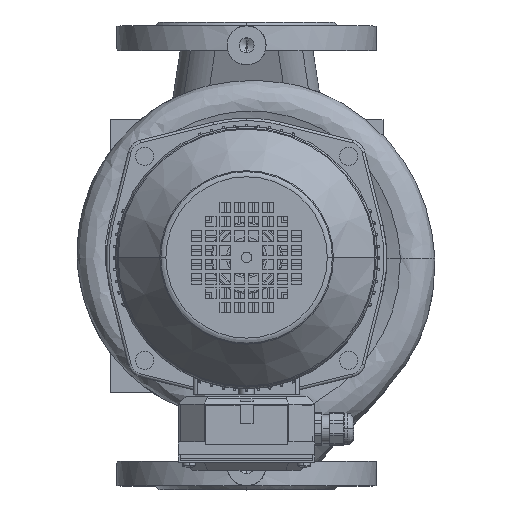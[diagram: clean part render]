
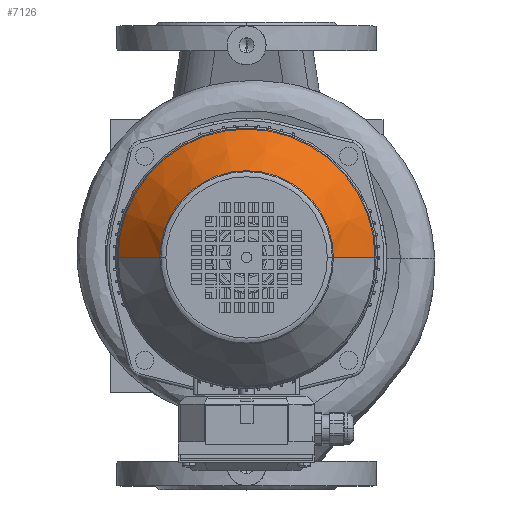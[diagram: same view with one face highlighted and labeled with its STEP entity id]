
A CAD part, top view. The second image highlights one B-rep face of the part: STEP entity #7126.
In plain terms, the highlighted conical face has half-angle 38.66 degrees and reference radius 65 mm.
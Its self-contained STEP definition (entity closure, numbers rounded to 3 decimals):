
#7126=ADVANCED_FACE('NONE',(#16731),#16732,.T.);
#16731=FACE_OUTER_BOUND('',#32318,.T.);
#16732=CONICAL_SURFACE('',#32319,65.0,0.675);
#32318=EDGE_LOOP('',(#48997,#48998,#48999,#49000));
#32319=AXIS2_PLACEMENT_3D('',#49001,#49002,#49003);
#48997=ORIENTED_EDGE('',*,*,#57045,.F.);
#48998=ORIENTED_EDGE('',*,*,#57046,.T.);
#48999=ORIENTED_EDGE('',*,*,#57047,.F.);
#49000=ORIENTED_EDGE('',*,*,#57048,.T.);
#49001=CARTESIAN_POINT('',(0.0,110.0,0.0));
#49002=DIRECTION('',(-0.0,-1.0,-0.0));
#49003=DIRECTION('',(0.0,0.0,-1.0));
#57045=EDGE_CURVE('',#70245,#70246,#70247,.T.);
#57046=EDGE_CURVE('NONE',#70245,#70248,#70249,.T.);
#57047=EDGE_CURVE('',#70250,#70248,#70251,.T.);
#57048=EDGE_CURVE('NONE',#70250,#70246,#70252,.T.);
#70245=VERTEX_POINT('',#92684);
#70246=VERTEX_POINT('NONE',#92685);
#70247=LINE('',#92686,#92687);
#70248=VERTEX_POINT('NONE',#92688);
#70249=CIRCLE('',#92689,66.801);
#70250=VERTEX_POINT('',#92690);
#70251=LINE('',#92691,#92692);
#70252=CIRCLE('',#92693,99.685);
#92684=CARTESIAN_POINT('',(0.,107.748,-66.801));
#92685=CARTESIAN_POINT('',(0.0,66.643,-99.685));
#92686=CARTESIAN_POINT('',(0.,110.0,-65.0));
#92687=VECTOR('',#102392,1.0);
#92688=CARTESIAN_POINT('',(0.,107.748,66.801));
#92689=AXIS2_PLACEMENT_3D('',#102393,#102394,#102395);
#92690=CARTESIAN_POINT('',(0.,66.643,99.685));
#92691=CARTESIAN_POINT('',(0.,110.0,65.0));
#92692=VECTOR('',#102396,1.0);
#92693=AXIS2_PLACEMENT_3D('',#102397,#102398,#102399);
#102392=DIRECTION('',(0.,-0.781,-0.625));
#102393=CARTESIAN_POINT('',(0.0,107.748,0.0));
#102394=DIRECTION('',(0.0,-1.0,0.0));
#102395=DIRECTION('',(0.0,0.0,1.0));
#102396=DIRECTION('',(0.,0.781,-0.625));
#102397=CARTESIAN_POINT('',(0.0,66.643,0.0));
#102398=DIRECTION('',(-0.0,1.0,0.0));
#102399=DIRECTION('',(0.0,0.0,1.0));
